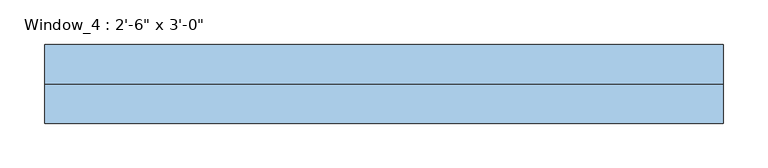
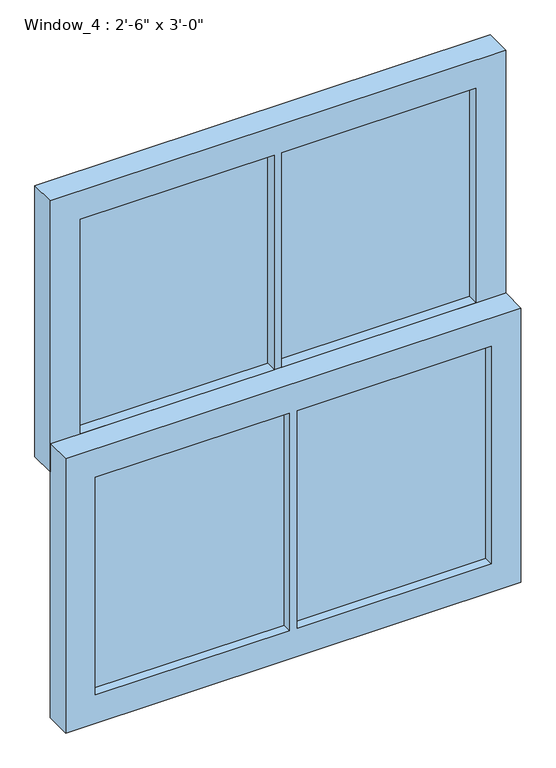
"""IFC4 building model written with IfcOpenShell, lengths in millimetres: window geometry."""

from ifc_helpers import new_model, si_unit, frame, origin, place, context, project, spatial, polyline, outline, extrude, source, transform, mapped, element, save


def window_ac6b56c1(model_context):
    return source(origin(), model_context, "Body", "SweptSolid", [
        extrude(outline(polyline([(-6.35, -44.45), (-331.0, -44.45), (-331.0, -37.5146408), (-6.35, -37.5146408), (-6.35, -44.45)])), frame((0.0, 0.0, 1323.175), z_axis=(0.0, 0.0, 1.0), x_axis=(1.0, 0.0, 0.0)), (0.0, 0.0, 1.0), 379.425),
        extrude(outline(polyline([(331.0, -44.45), (6.35, -44.45), (6.35, -37.5146408), (331.0, -37.5146408), (331.0, -44.45)])), frame((0.0, 0.0, 1323.175), z_axis=(0.0, 0.0, 1.0), x_axis=(1.0, 0.0, 0.0)), (0.0, 0.0, 1.0), 379.425),
        extrude(outline(polyline([(1752.6, -381.0), (1273.175, -381.0), (1273.175, 381.0), (1752.6, 381.0), (1752.6, -381.0)]), holes=[polyline([(1702.6, 6.35), (1702.6, 331.0), (1323.175, 331.0), (1323.175, 6.35), (1702.6, 6.35)]), polyline([(1323.175, -331.0), (1702.6, -331.0), (1702.6, -6.35), (1323.175, -6.35), (1323.175, -331.0)])]), frame((0.0, -63.5, 0.0), z_axis=(0.0, 1.0, 0.0), x_axis=(0.0, 0.0, 1.0)), (0.0, 0.0, 1.0), 44.45),
        extrude(outline(polyline([(6.35, -79.375), (331.0, -79.375), (331.0, -92.075), (6.35, -92.075), (6.35, -79.375)])), frame((0.0, 0.0, 888.2), z_axis=(0.0, 0.0, 1.0), x_axis=(1.0, 0.0, 0.0)), (0.0, 0.0, 1.0), 384.975),
        extrude(outline(polyline([(-331.0, -79.375), (-6.35, -79.375), (-6.35, -92.075), (-331.0, -92.075), (-331.0, -79.375)])), frame((0.0, 0.0, 888.2), z_axis=(0.0, 0.0, 1.0), x_axis=(1.0, 0.0, 0.0)), (0.0, 0.0, 1.0), 384.975),
        extrude(outline(polyline([(1323.175, -381.0), (838.2, -381.0), (838.2, 381.0), (1323.175, 381.0), (1323.175, -381.0)]), holes=[polyline([(888.2, -331.0), (1273.175, -331.0), (1273.175, -6.35), (888.2, -6.35), (888.2, -331.0)]), polyline([(1273.175, 6.35), (1273.175, 331.0), (888.2, 331.0), (888.2, 6.35), (1273.175, 6.35)])]), frame((0.0, -107.95, 0.0), z_axis=(0.0, 1.0, 0.0), x_axis=(0.0, 0.0, 1.0)), (0.0, 0.0, 1.0), 44.45),
    ])


if __name__ == "__main__":
    model = new_model("IFC4")
    model_context = context("Model", 3, world=origin())
    ifc_project = project(units=[si_unit("LENGTHUNIT", "METRE", prefix="MILLI")], contexts=[model_context])
    site = spatial("IfcSite", under=ifc_project)
    building = spatial("IfcBuilding", under=site)
    placement = place(None, origin())
    window_shape = window_ac6b56c1(model_context)
    element("IfcWindow", 1, ObjectType="Window_4 : 2'-6\" x 3'-0\"", at=placement, inside=building, context=model_context, shape_type="MappedRepresentation", body=[
        mapped(window_shape, transform((0.0, 0.0, 0.0), x_axis=(1.0, 0.0, 0.0), y_axis=(0.0, 1.0, 0.0), z_axis=(0.0, 0.0, 1.0))),
    ])
    save(model, "model.ifc")
